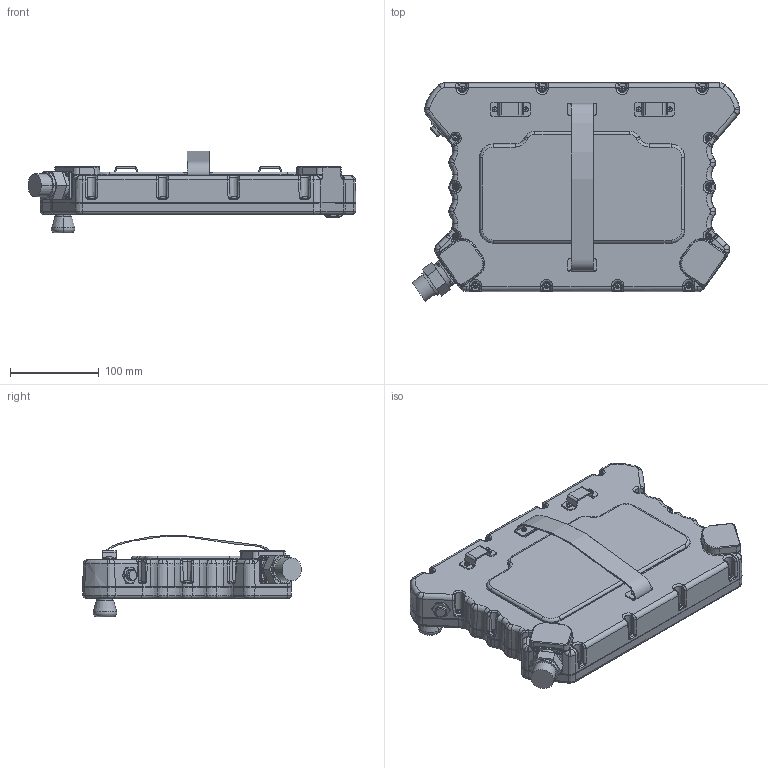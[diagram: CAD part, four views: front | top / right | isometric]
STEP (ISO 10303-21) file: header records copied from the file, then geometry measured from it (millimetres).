
FILE_DESCRIPTION (( 'STEP AP203' ), '1' );
FILE_NAME ('示教器Ⅱ.STEP', '2016-09-30T07:00:54', ( '' ), ( '' ), 'SwSTEP 2.0', 'SolidWorks 2014', '' );
FILE_SCHEMA (( 'CONFIG_CONTROL_DESIGN' ));
Length unit declared in the file: millimetre
Products named in the file (20): 尨諒ん攝韓湍; 示教器Ⅱ; 尨諒んｊ-菁碟揤翉璃; 瑤諾脣釱蟀諉啣; 尨諒ん鍼踢璃; 16mm踢扽葩弇羲壽; 尨諒んｊ-奻裔揤翉璃; 尨諒ん盓褐; 尨諒んｊ-奻裔郪蚾; 尨諒ん珆尨ん躇猾沭; 瑤諾脣釱WF24 Z IP67; GB_CROSS_SCREWS_TYPE1 M3X12-12  H type-N_GB_CROSS_SCREWS_TYPE1 M3X12-12  H type-N; 底盒_默认<按加工>; 16mm赻雄葩弇羲壽R13-507; 上盖_默认<按加工>; 尨諒んｊ-菁碟郪蚾; 揖類そ; GB_CROSS_SCREWS_TYPE1 M3X8-8  H type-N_GB_CROSS_SCREWS_TYPE1 M3X8-8  H type-N; 摹礿2; 示教器盒盖密封圈
Assembly tree (46 placements, depth 4):
  示教器Ⅱ
    尨諒んｊ-奻裔郪蚾
      尨諒んｊ-奻裔揤翉璃
        上盖_默认<按加工>
      揖類そ
      摹礿2
      16mm踢扽葩弇羲壽
      尨諒ん珆尨ん躇猾沭
      示教器盒盖密封圈
    尨諒んｊ-菁碟郪蚾
      尨諒んｊ-菁碟揤翉璃
        底盒_默认<按加工>
      尨諒ん盓褐  x2
      尨諒ん鍼踢璃  x3
      瑤諾脣釱WF24 Z IP67
      16mm赻雄葩弇羲壽R13-507
      尨諒ん攝韓湍
      GB_CROSS_SCREWS_TYPE1 M3X8-8  H type-N_GB_CROSS_SCREWS_TYPE1 M3X8-8  H type-N  x8
      瑤諾脣釱蟀諉啣
      GB_CROSS_SCREWS_TYPE1 M3X12-12  H type-N_GB_CROSS_SCREWS_TYPE1 M3X12-12  H type-N  x4
    GB_CROSS_SCREWS_TYPE1 M3X8-8  H type-N_GB_CROSS_SCREWS_TYPE1 M3X8-8  H type-N  x14
Bounding box: 368.83 x 245.9 x 92.19 mm (x, y, z)
Volume: 974202.4 mm3; surface area: 517447.9 mm2
Topology: 46 solids, 46 shells, 3834 faces, 9510 edges, 5775 vertices
Faces by surface type: plane 1157, cylinder 961, torus 677, cone 511, bspline 358, sphere 170
Entity records: 106098 total; most frequent: CARTESIAN_POINT 30950, DIRECTION 15751, ORIENTED_EDGE 15164, EDGE_CURVE 7582, AXIS2_PLACEMENT_3D 6530, VERTEX_POINT 4583, CIRCLE 3691, EDGE_LOOP 3359
